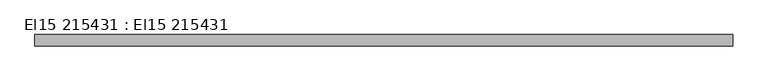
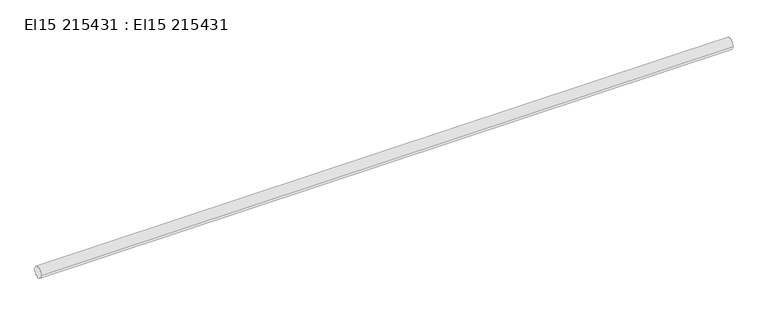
"""IFC4 building model written with IfcOpenShell, lengths in millimetres: cable carrier segment geometry, El15 215431 : El15 215431."""

from ifc_helpers import new_model, si_unit, point, frame, frame_2d, origin, place, context, project, spatial, circle_curve, trimmed, segment, composite_curve, outline, extrude, source, transform, mapped, element, save


def el15_215431_el15_215431_0e1905d8(model_context):
    return source(origin(), model_context, "Body", "SweptSolid", [
        extrude(outline(composite_curve([segment(trimmed(circle_curve(frame_2d((17022.1, 4200.0)), 9.5), [point((17012.6, 4200.0))], [point((17031.6, 4200.0))], False, "CARTESIAN"), True, "CONTINUOUS"), segment(trimmed(circle_curve(frame_2d((17022.1, 4200.0)), 9.5), [point((17031.6, 4200.0))], [point((17012.6, 4200.0))], False, "CARTESIAN"), True, "CONTINUOUS")], self_intersect=False)), frame((23305.0, 0.0, 0.0), z_axis=(1.0, 0.0, 0.0), x_axis=(0.0, 1.0, 0.0)), (0.0, 0.0, 1.0), 1180.0),
    ])


if __name__ == "__main__":
    model = new_model("IFC4")
    model_context = context("Model", 3, world=origin())
    ifc_project = project(units=[si_unit("LENGTHUNIT", "METRE", prefix="MILLI")], contexts=[model_context])
    site = spatial("IfcSite", under=ifc_project)
    building = spatial("IfcBuilding", under=site)
    placement = place(None, origin())
    el15_215431_el15_215431_shape = el15_215431_el15_215431_0e1905d8(model_context)
    element("IfcCableCarrierSegment", 1, ObjectType="El15 215431 : El15 215431", at=placement, inside=building, context=model_context, shape_type="MappedRepresentation", body=[
        mapped(el15_215431_el15_215431_shape, transform((0.0, 0.0, 0.0), x_axis=(1.0, 0.0, 0.0), y_axis=(0.0, 1.0, 0.0), z_axis=(0.0, 0.0, 1.0))),
    ])
    save(model, "model.ifc")
